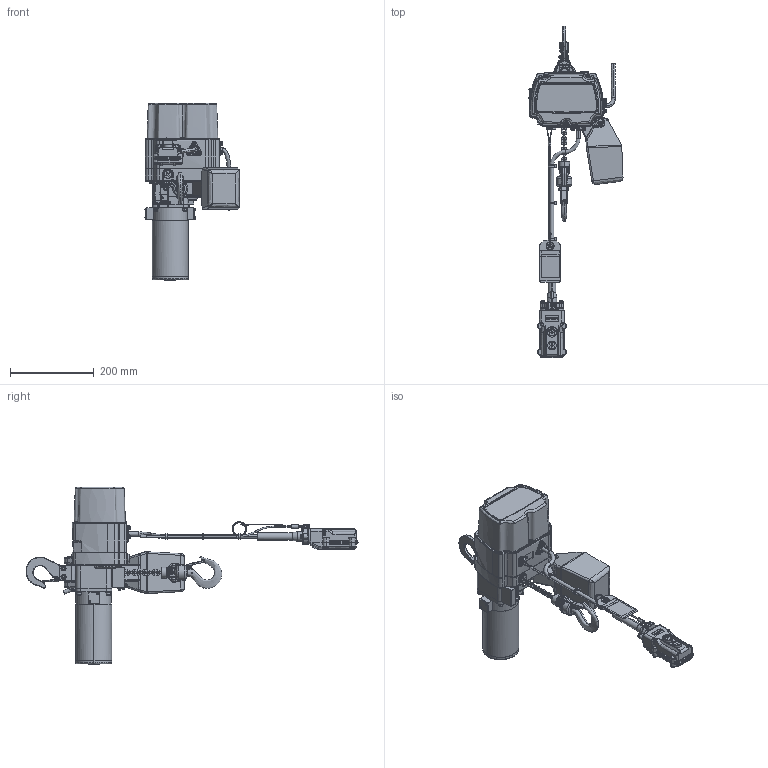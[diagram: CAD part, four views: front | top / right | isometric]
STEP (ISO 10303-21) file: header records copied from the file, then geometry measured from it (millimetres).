
FILE_DESCRIPTION (( 'STEP AP214' ), '1' );
FILE_NAME ('ED525.STEP', '2026-08-17T19:50:12', ( '' ), ( '' ), 'SwSTEP 2.0', 'SolidWorks 2026', '' );
FILE_SCHEMA (( 'AUTOMOTIVE_DESIGN' ));
Length unit declared in the file: millimetre
Products named in the file (2): ED525; ED525 Hook
Assembly tree (1 placements, depth 2):
  ED525
    ED525 Hook
Bounding box: 224.95 x 794.26 x 425 mm (x, y, z)
Surface area: 480167.5 mm2 (no closed solid volume)
Topology: 0 solids, 218 shells, 2087 faces, 8088 edges, 5979 vertices
Faces by surface type: bspline 2087
Entity records: 177543 total; most frequent: CARTESIAN_POINT 115356, ORIENTED_EDGE 11866, EDGE_CURVE 8045, VERTEX_POINT 5979, B_SPLINE_CURVE_WITH_KNOTS 5613, EDGE_LOOP 2335, UNCERTAINTY_MEASURE_WITH_UNIT 2090, SURFACE_SIDE_STYLE 2088
